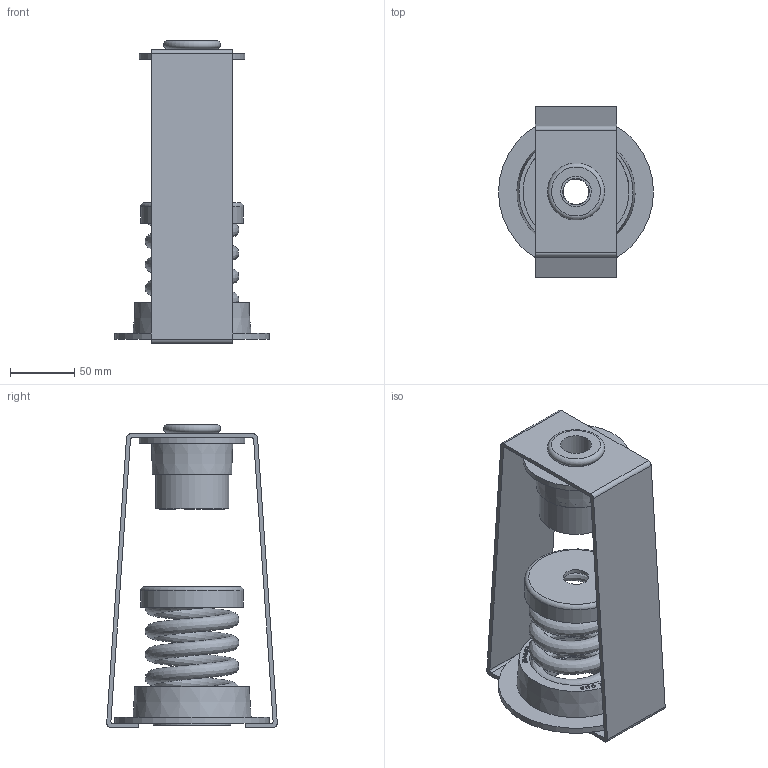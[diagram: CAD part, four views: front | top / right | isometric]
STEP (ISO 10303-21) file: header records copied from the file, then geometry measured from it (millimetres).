
FILE_DESCRIPTION((''),'2;1');
FILE_NAME('C:\2012_Work\Designs\exports\30N\30N-C-1265.stp','2013-06-27T14:46:17',('KShiels'),(''),'Autodesk Inventor 2012','Autodesk Inventor 2012','');
FILE_SCHEMA(('AUTOMOTIVE_DESIGN { 1 0 10303 214 1 1 1 1 }'));
Length unit declared in the file: inch
Products named in the file (14): 30N-C-1265; A-22578-7; A-22578-4A; A-22578-4B; A-22578-4C; SPRING 30-1265 FH; A-28441-3R; A-28441-3A; A-28441-3B; A-28441-3C; A-8589-3R HANGER CUP; A-8589-3R HANGER CUP C; A-8589-3R WASHER C; STEEL CUP 30N-C A-3269-2 (25(_FS)32)
Assembly tree (13 placements, depth 3):
  30N-C-1265
    A-22578-7
      A-22578-4A
      A-22578-4B
      A-22578-4C
    SPRING 30-1265 FH
    A-28441-3R
      A-28441-3A
      A-28441-3B
      A-28441-3C
    A-8589-3R HANGER CUP
      A-8589-3R HANGER CUP C
      A-8589-3R WASHER C
    STEEL CUP 30N-C A-3269-2 (25(_FS)32)
Bounding box: 120.65 x 132.88 x 235.74 mm (x, y, z)
Volume: 505070.6 mm3; surface area: 233725.9 mm2
Topology: 10 solids, 10 shells, 1039 faces, 2695 edges, 1796 vertices
Faces by surface type: plane 684, bspline 315, cylinder 35, torus 3, cone 2
Full cylindrical faces by diameter (mm): 19.844 x1, 20.638 x1, 23.812 x1, 23.813 x1, 31.75 x2, 38.1 x2, 39.688 x1, 50.8 x3, 53.181 x1, 57.15 x3, 60.325 x4, 72.231 x1, 73.819 x1, 80.082 x1, 82.55 x3, 120.65 x1
Entity records: 36618 total; most frequent: CARTESIAN_POINT 12893, ORIENTED_EDGE 5322, DIRECTION 3610, EDGE_CURVE 2661, VECTOR 1950, LINE 1950, VERTEX_POINT 1794, EDGE_LOOP 1209
